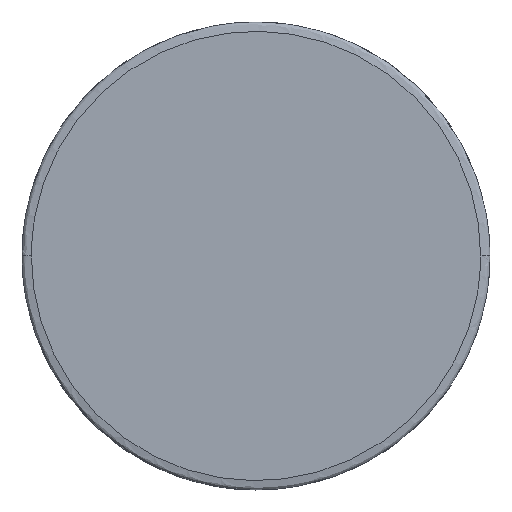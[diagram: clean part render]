
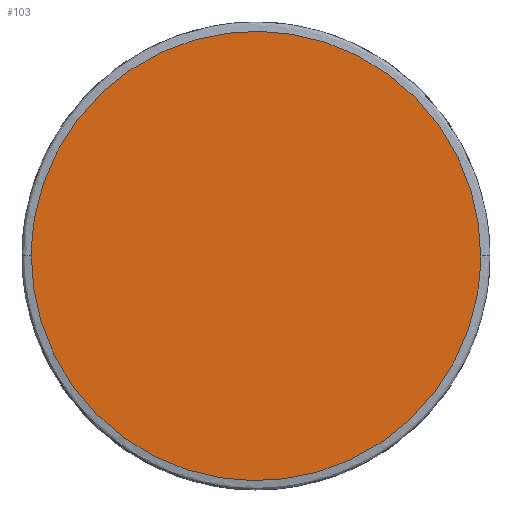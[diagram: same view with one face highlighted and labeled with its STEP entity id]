
A CAD part, top view. The second image highlights one B-rep face of the part: STEP entity #103.
In plain terms, the highlighted planar face has unit normal (0, 0, 1).
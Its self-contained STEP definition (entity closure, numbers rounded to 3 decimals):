
#103=ADVANCED_FACE('',(#259),#1947,.T.);
#259=FACE_OUTER_BOUND('',#417,.T.);
#417=EDGE_LOOP('',(#696,#697));
#696=ORIENTED_EDGE('',*,*,#1224,.T.);
#697=ORIENTED_EDGE('',*,*,#1225,.T.);
#1224=EDGE_CURVE('',#1790,#1791,#1610,.T.);
#1225=EDGE_CURVE('',#1791,#1790,#1611,.T.);
#1610=(
BOUNDED_CURVE()
B_SPLINE_CURVE(2,(#4661,#4662,#4663,#4664,#4665),.UNSPECIFIED.,.F.,.F.)
B_SPLINE_CURVE_WITH_KNOTS((3,2,3),(-1507.964,-753.982,
0.),.UNSPECIFIED.)
CURVE()
GEOMETRIC_REPRESENTATION_ITEM()
RATIONAL_B_SPLINE_CURVE((1.,0.707,1.,0.707,1.))
REPRESENTATION_ITEM('')
);
#1611=(
BOUNDED_CURVE()
B_SPLINE_CURVE(2,(#4666,#4667,#4668,#4669,#4670),.UNSPECIFIED.,.F.,.F.)
B_SPLINE_CURVE_WITH_KNOTS((3,2,3),(-1507.964,-753.982,
0.),.UNSPECIFIED.)
CURVE()
GEOMETRIC_REPRESENTATION_ITEM()
RATIONAL_B_SPLINE_CURVE((1.,0.707,1.,0.707,1.))
REPRESENTATION_ITEM('')
);
#1790=VERTEX_POINT('',#4599);
#1791=VERTEX_POINT('',#4600);
#1947=PLANE('',#2123);
#2123=AXIS2_PLACEMENT_3D('',#4598,#2154,$);
#2154=DIRECTION('',(0.,0.,1.));
#4598=CARTESIAN_POINT('',(-576.001,576.001,700.));
#4599=CARTESIAN_POINT('',(-480.,0.,700.));
#4600=CARTESIAN_POINT('',(480.,0.,700.));
#4661=CARTESIAN_POINT('',(-480.,0.,700.));
#4662=CARTESIAN_POINT('',(-480.,-480.,700.));
#4663=CARTESIAN_POINT('',(0.,-480.,700.));
#4664=CARTESIAN_POINT('',(480.,-480.,700.));
#4665=CARTESIAN_POINT('',(480.,0.,700.));
#4666=CARTESIAN_POINT('',(480.,0.,700.));
#4667=CARTESIAN_POINT('',(480.,480.,700.));
#4668=CARTESIAN_POINT('',(0.,480.,700.));
#4669=CARTESIAN_POINT('',(-480.,480.,700.));
#4670=CARTESIAN_POINT('',(-480.,0.,700.));
